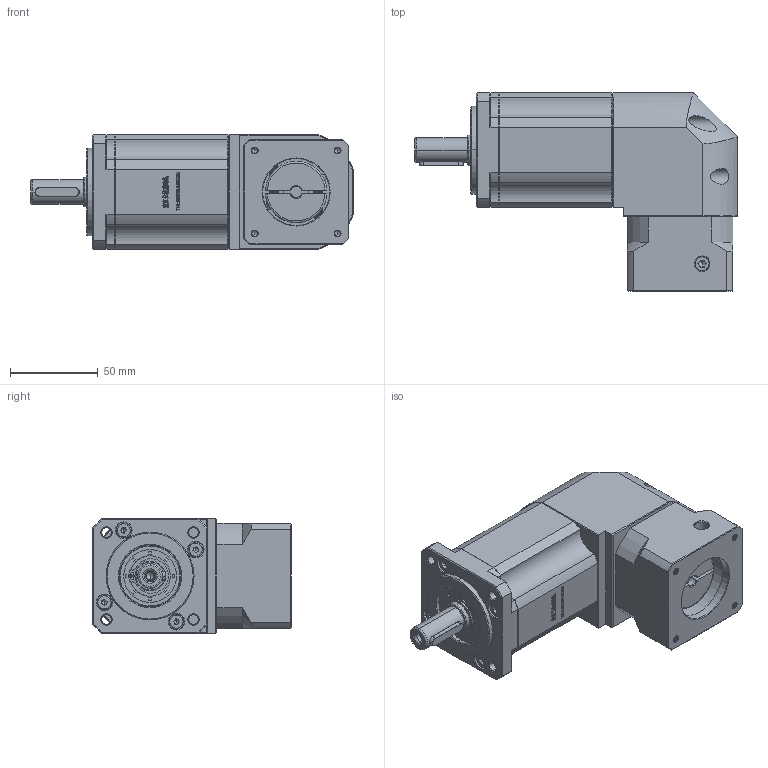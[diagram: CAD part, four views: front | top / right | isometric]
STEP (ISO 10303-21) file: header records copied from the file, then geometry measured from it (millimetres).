
FILE_DESCRIPTION (( 'STEP AP214' ), '1' );
FILE_NAME ('ZBR60-D14-L3-6.35-38.1-47.14x47.14-M4.STEP', '2022-04-19T08:12:09', ( '' ), ( 'Microsoft' ), 'SwSTEP 2.0', 'SolidWorks 2016', '' );
FILE_SCHEMA (( 'AUTOMOTIVE_DESIGN' ));
Length unit declared in the file: millimetre
Products named in the file (1): ZBR60-D14-L3-6.35-38.1-47.14x47.14-M4
Bounding box: 183.5 x 112.7 x 65 mm (x, y, z)
Volume: 651848.2 mm3; surface area: 86946.6 mm2
Topology: 5 solids, 5 shells, 2839 faces, 7670 edges, 4968 vertices
Faces by surface type: plane 1473, bspline 591, cylinder 426, cone 327, torus 22
Entity records: 153012 total; most frequent: CARTESIAN_POINT 54854, ORIENTED_EDGE 15280, DIRECTION 11608, EDGE_CURVE 7640, LINE 5040, VECTOR 5040, VERTEX_POINT 4968, AXIS2_PLACEMENT_3D 3284
